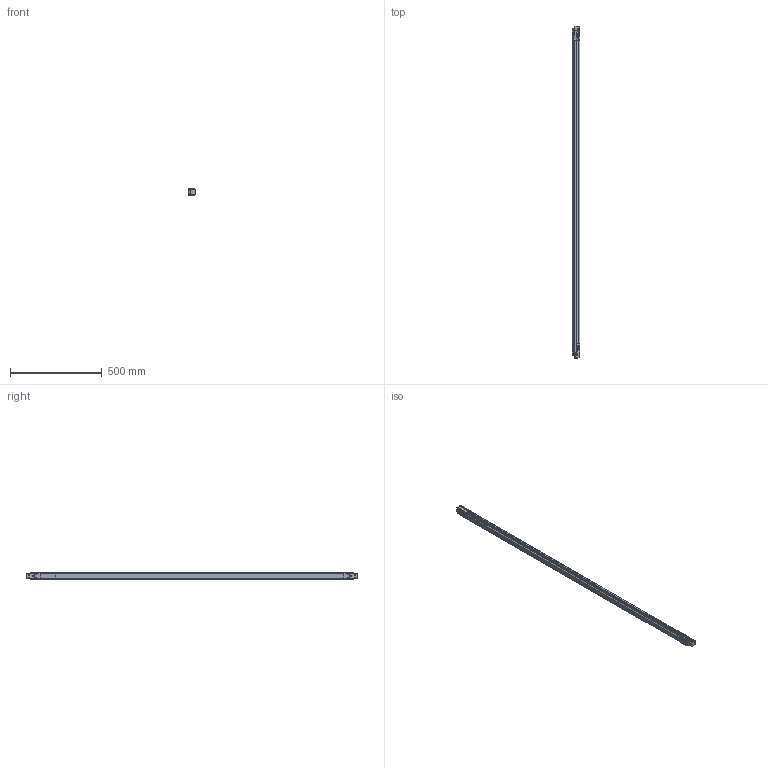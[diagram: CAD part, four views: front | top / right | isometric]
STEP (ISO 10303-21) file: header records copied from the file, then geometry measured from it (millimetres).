
FILE_DESCRIPTION((''),'2;1');
FILE_NAME('2012804_ASM','2013-06-14T',('rink'),(''),'PRO/ENGINEER BY PARAMETRIC TECHNOLOGY CORPORATION, 2011040','PRO/ENGINEER BY PARAMETRIC TECHNOLOGY CORPORATION, 2011040','');
FILE_SCHEMA(('AUTOMOTIVE_DESIGN_CC2 { 1 2 10303 214 -1 1 5 2 }'));
Products named in the file (4): 2012803; 2012768; 2008185; 2012804_ASM
Assembly tree (4 placements, depth 2):
  2012804_ASM
    2012803
    2012768  x2
    2008185
Bounding box: 40.95 x 1806.2 x 35 mm (x, y, z)
Surface area: 328106 mm2
Topology: 15 solids, 167 shells, 2422 faces, 8655 edges, 6173 vertices
Faces by surface type: plane 1513, cylinder 506, bspline 172, cone 150, torus 61, sphere 20
Entity records: 102025 total; most frequent: CARTESIAN_POINT 29235, ORIENTED_EDGE 10011, DIRECTION 9414, PRESENTATION_STYLE_ASSIGNMENT 6761, STYLED_ITEM 6756, CURVE_STYLE 6631, EDGE_CURVE 6615, VERTEX_POINT 4796
